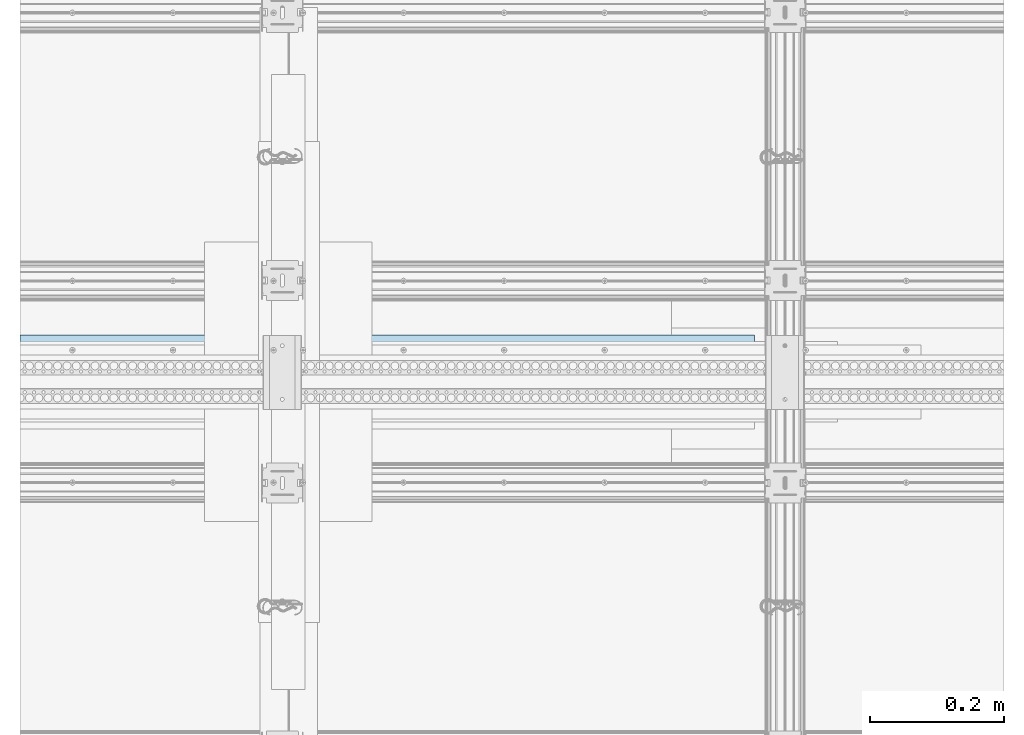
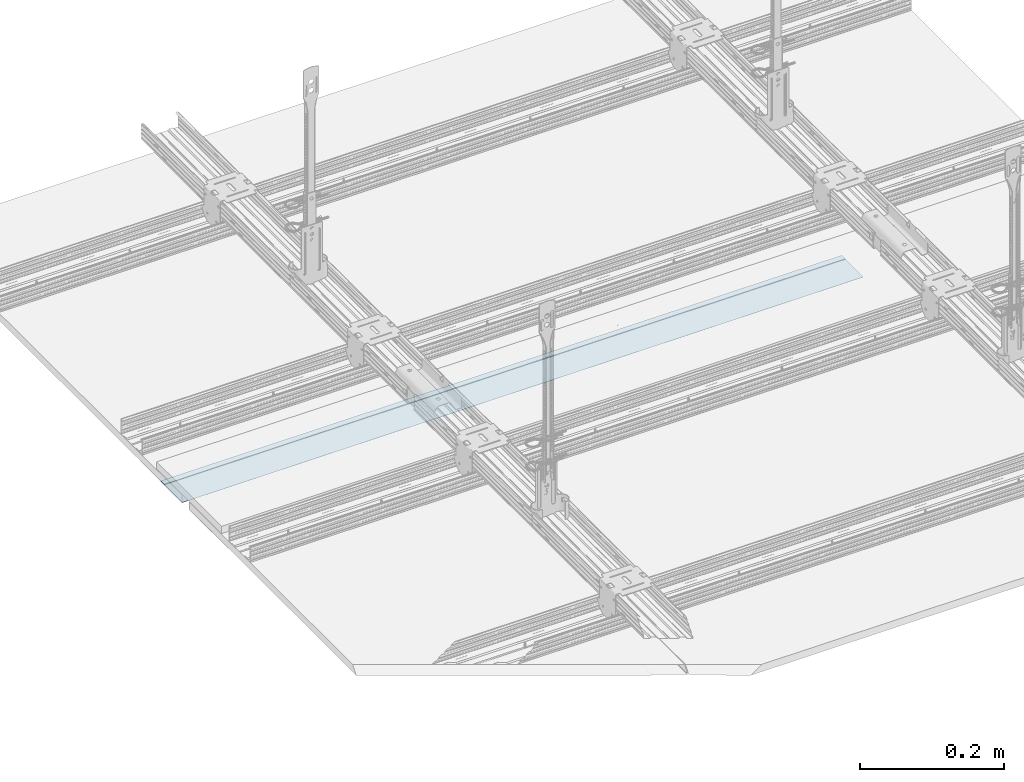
# One storey, part 2 of 56: 1 slab.
"""IFC2X3 building model written with IfcOpenShell, lengths in millimetres."""

from ifc_helpers import new_model, entity, si_unit, converted_unit, direction, frame, origin, origin_with_axes, place, context, project, spatial, faceted_brep, element, save


model = new_model("IFC2X3")

# Units and contexts
model_context = context("Model", 3, precision=1e-05, world=origin(), true_north=direction((0.0, 1.0, 0.0)))
ifc_project = project(units=[si_unit("LENGTHUNIT", "METRE", prefix="MILLI"), si_unit("AREAUNIT", "SQUARE_METRE"), si_unit("VOLUMEUNIT", "CUBIC_METRE"), converted_unit("PLANEANGLEUNIT", "DEGREE", entity("IfcPlaneAngleMeasure", 0.01745), si_unit("PLANEANGLEUNIT", "RADIAN"), dimensions=[0, 0, 0, 0, 0, 0, 0]), si_unit("SOLIDANGLEUNIT", "STERADIAN"), si_unit("MASSUNIT", "GRAM"), si_unit("TIMEUNIT", "SECOND"), si_unit("THERMODYNAMICTEMPERATUREUNIT", "DEGREE_CELSIUS"), si_unit("LUMINOUSINTENSITYUNIT", "LUMEN")], contexts=[model_context])

# Site, building, storey
site_placement = place(None, origin_with_axes())
site = spatial("IfcSite", under=ifc_project, at=site_placement, Name="Default Site", CompositionType="ELEMENT")
building_placement = place(site_placement, origin_with_axes())
building = spatial("IfcBuilding", under=site, at=building_placement, Name="Default Building", CompositionType="ELEMENT")
storey_placement = place(building_placement, origin_with_axes())
storey = spatial("IfcBuildingStorey", under=building, at=storey_placement, Name="Default Building Storey", CompositionType="ELEMENT", Elevation=0.0)

# Slab
slab_placement = place(storey_placement, frame((2906.719840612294, 865.7854072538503, 4101.369008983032), z_axis=(1.0, -9.982569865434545e-14, -2.658095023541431e-12), x_axis=(-1.533495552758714e-13, -1.0, 2.784465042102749e-12)))
element("IfcSlab", 1, at=slab_placement, inside=storey, Name="Dedykowana masa szpachlowa Rigips - konstrukcyjna", context=model_context, shape_type="Brep", body=[
    faceted_brep([(-762.4592163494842, 3120.636172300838, -781.6947071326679), (-762.4592163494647, 3120.636172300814, 314.0416950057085), (-762.4592163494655, 3119.991727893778, 314.0416950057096), (-762.4592163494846, 3119.991727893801, -781.6947071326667), (-772.4592163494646, 3119.991727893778, 314.0416950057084), (-772.4592163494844, 3119.991727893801, -781.6947071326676), (-712.4592163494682, 3120.636172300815, 314.0416950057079), (-712.4592163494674, 3120.820299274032, 314.0416950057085), (-772.4592163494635, 3120.820299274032, 314.0416950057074), (-712.4592163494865, 3120.820299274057, -781.6947071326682), (-712.4592163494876, 3120.636172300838, -781.6947071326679), (-772.459216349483, 3120.820299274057, -781.6947071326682)], [[[0, 1, 2, 3]], [[2, 4, 5, 3]], [[6, 7, 8, 4, 2, 1]], [[9, 10, 0, 3, 5, 11]], [[0, 10, 6, 1]], [[4, 8, 11, 5]], [[11, 8, 7, 9]], [[9, 7, 6, 10]]]),
])

save(model, "model.ifc")
